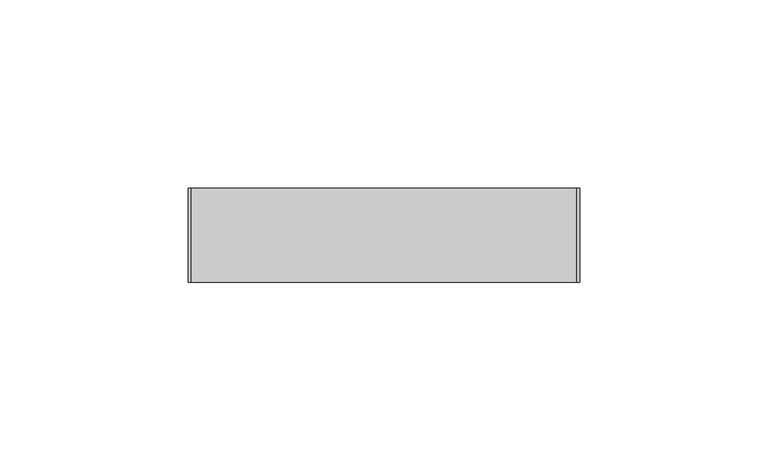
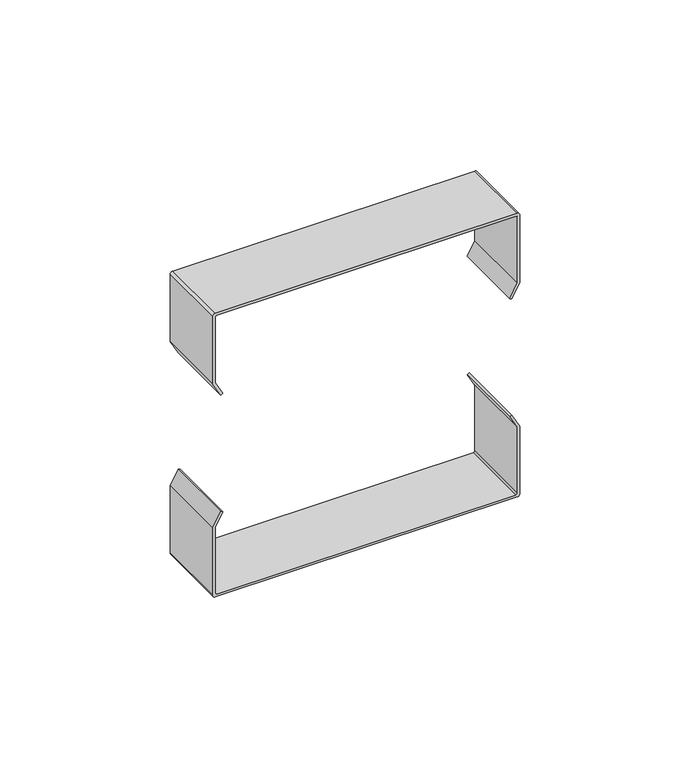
"""IFC4 building model written with IfcOpenShell, lengths in millimetres: proxy geometry, Cable_Tray_CoverRetainer_P T ERE_Basortray : Basortray P T ERE-i304-100."""

import ifcopenshell
import ifcopenshell.guid

model = None  # the IFC model being written
_history = None  # IfcOwnerHistory: only IFC2X3 demands one
_inside = {}  # id of a spatial element -> (the spatial element, [elements in it])
_under = {}  # id of a project, library or spatial element -> (it, [spatial elements below it])
_declared = {}  # id of a project -> (the project, [libraries it declares])
_typed = {}  # id of a type object -> (the type object, [elements of that type])
_made_of = {}  # id of a material, layer set ... -> (it, [elements and type objects made of it])


def new_model(schema):
    """Start an empty IFC model of exactly this schema.

    Asked for "IFC4X3", IfcOpenShell would pick the latest addendum, in which some entities
    have other attributes; the version numbers below select the first issue.
    IFC2X3 requires an IfcOwnerHistory on every rooted entity: one is made here for all.
    """
    global model, _history
    if schema == "IFC4X3":
        model = ifcopenshell.file(schema_version=(4, 3, 0, 0))
    else:
        model = ifcopenshell.file(schema=schema)
    _inside.clear()
    _under.clear()
    _declared.clear()
    _typed.clear()
    _made_of.clear()
    _history = None
    if model.schema == "IFC2X3":
        org = make("IfcOrganization", Name="unknown")
        user = make(
            "IfcPersonAndOrganization",
            ThePerson=make("IfcPerson", FamilyName="unknown"),
            TheOrganization=org,
        )
        app = make(
            "IfcApplication",
            ApplicationDeveloper=org,
            Version="unknown",
            ApplicationFullName="unknown",
            ApplicationIdentifier="unknown",
        )
        _history = make(
            "IfcOwnerHistory",
            OwningUser=user,
            OwningApplication=app,
            ChangeAction="ADDED",
            CreationDate=0,
        )
    return model


def make(cls, **values):
    """One entity of the class cls with the attributes given. An attribute that is None is left unset."""
    return model.create_entity(
        cls, **{name: value for name, value in values.items() if value is not None}
    )


def rooted(cls, **values):
    """An entity with a GlobalId (a new one), such as an element, a storey or a relation."""
    return make(cls, GlobalId=ifcopenshell.guid.new(), OwnerHistory=_history, **values)


def si_unit(unit_type, name, prefix=None):
    """IfcSIUnit, for example si_unit("LENGTHUNIT", "METRE", prefix="MILLI")."""
    return make("IfcSIUnit", UnitType=unit_type, Prefix=prefix, Name=name)


def assignment(units):
    """IfcUnitAssignment: the units of a project."""
    return None if units is None else make("IfcUnitAssignment", Units=units)


def point(xyz):
    """IfcCartesianPoint."""
    return None if xyz is None else make("IfcCartesianPoint", Coordinates=xyz)


def direction(xyz):
    """IfcDirection."""
    return None if xyz is None else make("IfcDirection", DirectionRatios=xyz)


def frame(location, z_axis=None, x_axis=None):
    """IfcAxis2Placement3D, a coordinate frame: its origin and axes. An axis left out is left unset."""
    return make(
        "IfcAxis2Placement3D",
        Location=point(location),
        Axis=direction(z_axis),
        RefDirection=direction(x_axis),
    )


def frame_2d(location, x_axis=None):
    """IfcAxis2Placement2D, a coordinate frame in the plane: its origin and x axis."""
    return make(
        "IfcAxis2Placement2D", Location=point(location), RefDirection=direction(x_axis)
    )


def origin():
    """The frame at (0, 0, 0) with its axes left unset."""
    return frame((0.0, 0.0, 0.0))


def origin_2d():
    """The frame at (0, 0) in the plane with its x axis left unset."""
    return frame_2d((0.0, 0.0))


def place(relative_to, where):
    """IfcLocalPlacement: puts the frame where relative to a parent placement (None: the world)."""
    return make(
        "IfcLocalPlacement", PlacementRelTo=relative_to, RelativePlacement=where
    )


def context(
    kind, dimensions, precision=None, world=None, true_north=None, identifier=None
):
    """IfcGeometricRepresentationContext, for example the 3D "Model" context."""
    return make(
        "IfcGeometricRepresentationContext",
        ContextIdentifier=identifier,
        ContextType=kind,
        CoordinateSpaceDimension=dimensions,
        Precision=precision,
        WorldCoordinateSystem=world,
        TrueNorth=true_north,
    )


def project(units=None, contexts=None):
    """IfcProject with its units and contexts."""
    return rooted(
        "IfcProject",
        Name="project",
        RepresentationContexts=contexts,
        UnitsInContext=assignment(units),
    )


def spatial(cls, under=None, at=None, **own):
    """A site, building, storey or space (cls), placed at a placement, below another one or the project."""
    s = rooted(cls, ObjectPlacement=at, **own)
    if under is not None:
        _under.setdefault(under.id(), (under, []))[1].append(s)
    return s


def polyline(points):
    """IfcPolyline through the points."""
    return make("IfcPolyline", Points=[point(p) for p in points])


def circle_curve(where, radius):
    """IfcCircle in the frame where."""
    return make("IfcCircle", Position=where, Radius=radius)


def trimmed(basis, trim1, trim2, sense, master):
    """IfcTrimmedCurve: the piece of a basis curve between two trims."""
    return make(
        "IfcTrimmedCurve",
        BasisCurve=basis,
        Trim1=trim1,
        Trim2=trim2,
        SenseAgreement=sense,
        MasterRepresentation=master,
    )


def segment(curve, same_sense, transition):
    """IfcCompositeCurveSegment."""
    return make(
        "IfcCompositeCurveSegment",
        Transition=transition,
        SameSense=same_sense,
        ParentCurve=curve,
    )


def composite_curve(segments, self_intersect=None):
    """IfcCompositeCurve: segments joined end to end."""
    return make("IfcCompositeCurve", Segments=segments, SelfIntersect=self_intersect)


def outline(outer, holes=None, kind="AREA"):
    """IfcArbitraryClosedProfileDef: a profile drawn as a closed curve; with holes, ...WithVoids."""
    if holes is None:
        return make("IfcArbitraryClosedProfileDef", ProfileType=kind, OuterCurve=outer)
    return make(
        "IfcArbitraryProfileDefWithVoids",
        ProfileType=kind,
        OuterCurve=outer,
        InnerCurves=holes,
    )


def extrude(swept, where, along, depth):
    """IfcExtrudedAreaSolid: the profile swept, set in the frame where, extruded along a direction by depth."""
    return make(
        "IfcExtrudedAreaSolid",
        SweptArea=swept,
        Position=where,
        ExtrudedDirection=direction(along),
        Depth=depth,
    )


def shape(context_of_items, identifier, shape_type, items):
    """IfcShapeRepresentation: the items that make up one representation, for example the "Body"."""
    return make(
        "IfcShapeRepresentation",
        ContextOfItems=context_of_items,
        RepresentationIdentifier=identifier,
        RepresentationType=shape_type,
        Items=items,
    )


def source(mapping_origin, context_of_items, identifier, shape_type, items):
    """IfcRepresentationMap: a shape defined once, which mapped items show again and again."""
    return make(
        "IfcRepresentationMap",
        MappingOrigin=mapping_origin,
        MappedRepresentation=shape(context_of_items, identifier, shape_type, items),
    )


def transform(
    local_origin,
    x_axis=None,
    y_axis=None,
    z_axis=None,
    scale=None,
    scale2=None,
    scale3=None,
    uniform=True,
):
    """IfcCartesianTransformationOperator3D, or its non-uniform kind. x_axis, y_axis, z_axis: its Axis1, 2, 3."""
    if uniform:
        return make(
            "IfcCartesianTransformationOperator3D",
            Axis1=direction(x_axis),
            Axis2=direction(y_axis),
            LocalOrigin=point(local_origin),
            Scale=scale,
            Axis3=direction(z_axis),
        )
    return make(
        "IfcCartesianTransformationOperator3DnonUniform",
        Axis1=direction(x_axis),
        Axis2=direction(y_axis),
        LocalOrigin=point(local_origin),
        Scale=scale,
        Axis3=direction(z_axis),
        Scale2=scale2,
        Scale3=scale3,
    )


def mapped(mapping_source, mapping_target):
    """IfcMappedItem: shows the shape of a source again, moved by a transform."""
    return make(
        "IfcMappedItem", MappingSource=mapping_source, MappingTarget=mapping_target
    )


def made_of(thing, what):
    """Note that an element or type object is made of a material, layer set ...; save() writes the relation."""
    if what is not None:
        _made_of.setdefault(what.id(), (what, []))[1].append(thing)
    return thing


def element(
    cls,
    number,
    at=None,
    inside=None,
    cuts=None,
    type_object=None,
    material=None,
    context=None,
    identifier="Body",
    shape_type=None,
    held_by="IfcProductDefinitionShape",
    body=None,
    shapes=None,
    **own,
):
    """One element of the class cls, such as IfcWall. Its Tag is "e" and its number.

    at: its placement. inside: the storey or other place that contains it. cuts: it is an
    opening in that element (IfcRelVoidsElement). A single representation is given by context,
    identifier, shape_type and body (its items); several are given by shapes. held_by: the class
    of the entity that holds the representations. save() writes the other relations.
    """
    e = rooted(cls, Tag="e%d" % number, ObjectPlacement=at, **own)
    if body is not None:
        shapes = [shape(context, identifier, shape_type, body)]
    if shapes is not None:
        e.Representation = make(held_by, Representations=shapes)
    if inside is not None:
        _inside.setdefault(inside.id(), (inside, []))[1].append(e)
    if cuts is not None:
        rooted(
            "IfcRelVoidsElement", RelatingBuildingElement=cuts, RelatedOpeningElement=e
        )
    if type_object is not None:
        _typed.setdefault(type_object.id(), (type_object, []))[1].append(e)
    return made_of(e, material)


def aggregate(whole, parts):
    """IfcRelAggregates: a whole, such as a stair, and the parts it consists of."""
    return rooted("IfcRelAggregates", RelatingObject=whole, RelatedObjects=parts)


def save(model, path):
    """Write the relations noted so far, then the file.

    IfcRelAggregates (storeys below a building ...), IfcRelContainedInSpatialStructure (elements
    in a storey), IfcRelDefinesByType, IfcRelAssociatesMaterial and IfcRelDeclares: one each for
    every whole, place, type object, material and project.
    """
    for whole, parts in _under.values():
        aggregate(whole, parts)
    for where, things in _inside.values():
        rooted(
            "IfcRelContainedInSpatialStructure",
            RelatedElements=things,
            RelatingStructure=where,
        )
    for kind, things in _typed.values():
        rooted("IfcRelDefinesByType", RelatedObjects=things, RelatingType=kind)
    for what, things in _made_of.values():
        rooted("IfcRelAssociatesMaterial", RelatedObjects=things, RelatingMaterial=what)
    for by, libraries in _declared.values():
        rooted("IfcRelDeclares", RelatingContext=by, RelatedDefinitions=libraries)
    model.write(path)


def generic_models_f615600c(model_context):
    return source(origin(), model_context, "Body", "SweptSolid", [
        extrude(outline(composite_curve([segment(polyline([(-75.7061609, -0.8), (-100.0, -0.8)]), True, "CONTINUOUS"), segment(trimmed(circle_curve(frame_2d((-100.0, 0.0)), 0.8), [point((-100.0, -0.8))], [point((-100.8, 0.0))], False, "CARTESIAN"), True, "CONTINUOUS"), segment(polyline([(-100.8, 0.0), (-100.8, 102.4)]), True, "CONTINUOUS"), segment(trimmed(circle_curve(frame_2d((-100.0, 102.4)), 0.8), [point((-100.8, 102.4))], [point((-100.0, 103.2))], False, "CARTESIAN"), True, "CONTINUOUS"), segment(polyline([(-100.0, 103.2), (-75.7061609, 103.2), (-70.8, 100.4804706), (-71.1878477, 99.7807748), (-75.913055, 102.4), (-99.49, 102.4)]), True, "CONTINUOUS"), segment(trimmed(circle_curve(frame_2d((-99.49, 101.89)), 0.51), [point((-99.49, 102.4))], [point((-100.0, 101.89))], True, "CARTESIAN"), True, "CONTINUOUS"), segment(polyline([(-100.0, 101.89), (-100.0, 0.51)]), True, "CONTINUOUS"), segment(trimmed(circle_curve(frame_2d((-99.49, 0.51)), 0.51), [point((-100.0, 0.51))], [point((-99.49, 0.0))], True, "CARTESIAN"), True, "CONTINUOUS"), segment(polyline([(-99.49, 0.0), (-75.913055, 0.0), (-71.1878477, 2.6192252), (-70.8, 1.9195294), (-75.7061609, -0.8)]), True, "CONTINUOUS")], self_intersect=False)), frame((0.0, 0.0, 0.0), z_axis=(0.0, 1.0, 0.0), x_axis=(0.0, 0.0, 1.0)), (0.0, 0.0, 1.0), 25.0),
        extrude(outline(composite_curve([segment(polyline([(-24.2938391, -0.8), (-29.2, 1.9195294), (-28.8121523, 2.6192252), (-24.086945, 0.0), (-0.51, 0.0)]), True, "CONTINUOUS"), segment(trimmed(circle_curve(frame_2d((-0.51, 0.51)), 0.51), [point((-0.51, 0.0))], [point((0.0, 0.51))], True, "CARTESIAN"), True, "CONTINUOUS"), segment(polyline([(0.0, 0.51), (0.0, 101.89)]), True, "CONTINUOUS"), segment(trimmed(circle_curve(frame_2d((-0.51, 101.89)), 0.51), [point((0.0, 101.89))], [point((-0.51, 102.4))], True, "CARTESIAN"), True, "CONTINUOUS"), segment(polyline([(-0.51, 102.4), (-24.086945, 102.4), (-28.8121523, 99.7807748), (-29.2, 100.4804706), (-24.2938391, 103.2), (0.0, 103.2)]), True, "CONTINUOUS"), segment(trimmed(circle_curve(frame_2d((0.0, 102.4)), 0.8), [point((0.0, 103.2))], [point((0.8, 102.4))], False, "CARTESIAN"), True, "CONTINUOUS"), segment(polyline([(0.8, 102.4), (0.8, 0.0)]), True, "CONTINUOUS"), segment(trimmed(circle_curve(origin_2d(), 0.8), [point((0.8, 0.0))], [point((0.0, -0.8))], False, "CARTESIAN"), True, "CONTINUOUS"), segment(polyline([(0.0, -0.8), (-24.2938391, -0.8)]), True, "CONTINUOUS")], self_intersect=False)), frame((0.0, 0.0, 0.0), z_axis=(0.0, 1.0, 0.0), x_axis=(0.0, 0.0, 1.0)), (0.0, 0.0, 1.0), 25.0),
    ])


if __name__ == "__main__":
    model = new_model("IFC4")
    model_context = context("Model", 3, world=origin())
    ifc_project = project(units=[si_unit("LENGTHUNIT", "METRE", prefix="MILLI")], contexts=[model_context])
    site = spatial("IfcSite", under=ifc_project)
    building = spatial("IfcBuilding", under=site)
    placement = place(None, origin())
    generic_models_shape = generic_models_f615600c(model_context)
    element("IfcBuildingElementProxy", 1, Name="Cable_Tray_CoverRetainer_P T ERE_Basortray : Basortray P T ERE-i304-100", ObjectType="Cable_Tray_CoverRetainer_P T ERE_Basortray : Basortray P T ERE-i304-100", at=placement, inside=building, context=model_context, shape_type="MappedRepresentation", body=[
        mapped(generic_models_shape, transform((0.0, 0.0, 0.0), x_axis=(1.0, 0.0, 0.0), y_axis=(0.0, 1.0, 0.0), z_axis=(0.0, 0.0, 1.0))),
    ])
    save(model, "model.ifc")
